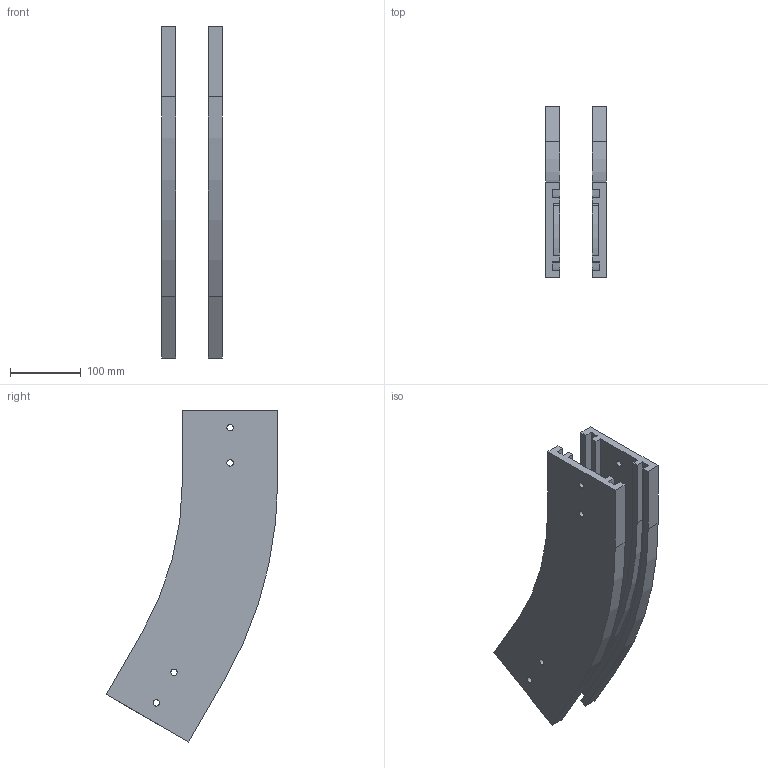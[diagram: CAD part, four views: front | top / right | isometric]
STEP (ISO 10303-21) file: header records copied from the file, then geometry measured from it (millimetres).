
FILE_DESCRIPTION (( 'STEP AP203' ), '1' );
FILE_NAME ('R2CV500-30.STEP', '2008-12-02T09:20:16', ( 'faber' ), ( '' ), 'SwSTEP 2.0', 'SolidWorks 2008', '' );
FILE_SCHEMA (( 'CONFIG_CONTROL_DESIGN' ));
Length unit declared in the file: millimetre
Products named in the file (1): R2CV500-30
Bounding box: 86 x 242.94 x 470.35 mm (x, y, z)
Volume: 1629171.5 mm3; surface area: 352129 mm2
Topology: 2 solids, 2 shells, 84 faces, 240 edges, 160 vertices
Faces by surface type: plane 52, cylinder 32
Entity records: 2855 total; most frequent: CARTESIAN_POINT 485, ORIENTED_EDGE 480, DIRECTION 474, EDGE_CURVE 240, VECTOR 176, LINE 176, VERTEX_POINT 160, AXIS2_PLACEMENT_3D 149
